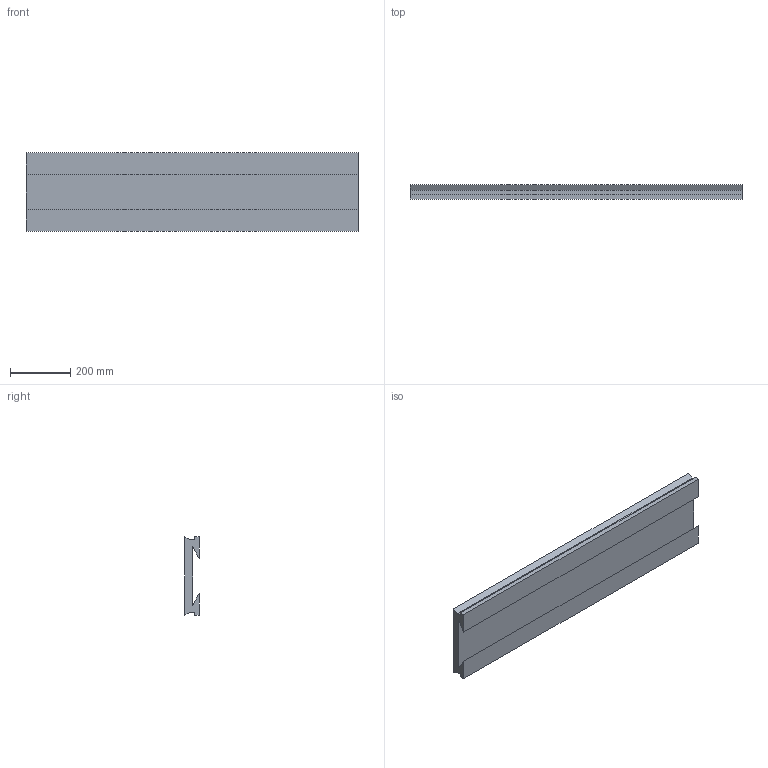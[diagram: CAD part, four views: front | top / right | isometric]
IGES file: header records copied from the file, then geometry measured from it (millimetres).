
Start section: This line is the first line of the start section. You can replace these lines and/or  add as many as you want.
Global section: file name: /dsk_ncs/ncsimul/support/trans/_bcd/x.igs; native system: COMPUTERVISION CADDS5 REV 5.3.2 GRAPHIC SYSTEM; preprocessor: CV Translators IGES/VDA Revision 2.1, STEP Revision 1.2; author: Author; organization: Organization; date: 970731.110808; units: millimetre
Bounding box: 1100 x 47.5 x 260 mm (x, y, z)
Topology: 0 solids, 0 shells, 17 faces, 84 edges, 84 vertices
Faces by surface type: bspline 16, plane 1
